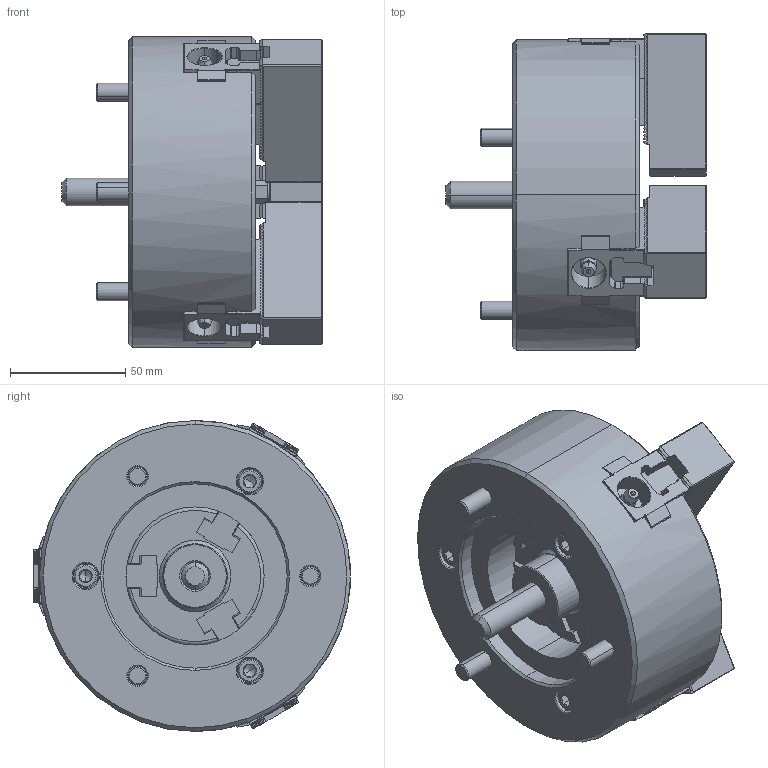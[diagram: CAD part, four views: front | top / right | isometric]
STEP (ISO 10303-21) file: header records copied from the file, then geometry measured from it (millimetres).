
FILE_DESCRIPTION (( 'STEP AP214' ), '1' );
FILE_NAME ('DT1_N-05_OUTSIDE_VIEW_UC.STEP', '2026-03-13T01:57:21', ( '' ), ( '' ), 'SwSTEP 2.0', 'SolidWorks 2022', '' );
FILE_SCHEMA (( 'AUTOMOTIVE_DESIGN' ));
Length unit declared in the file: millimetre
Products named in the file (10): DT1_N-05_M8x60^DT1_N-05; DT1_N-05_DRAWSCREW^DT1_N-05; DT1_N-05_SOFTJAW^DT1_N-05; DT1_N-05_COVER^DT1_N-05; DT1_N-05_M4x8^DT1_N-05; DT1_N-05_DN^DT1_N-05; DT1_N-05_TNUT^DT1_N-05; DT1_N-05_OUTSIDE_VIEW_UC; DT1_N-05_M8x22^DT1_N-05; DT1_N-05_BASE^DT1_N-05
Assembly tree (22 placements, depth 2):
  DT1_N-05_OUTSIDE_VIEW_UC
    DT1_N-05_SOFTJAW^DT1_N-05  x3
    DT1_N-05_TNUT^DT1_N-05  x3
    DT1_N-05_COVER^DT1_N-05
    DT1_N-05_DRAWSCREW^DT1_N-05
    DT1_N-05_DN^DT1_N-05
    DT1_N-05_BASE^DT1_N-05
    DT1_N-05_M8x22^DT1_N-05  x6
    DT1_N-05_M8x60^DT1_N-05  x3
    DT1_N-05_M4x8^DT1_N-05  x3
Bounding box: 113 x 137.65 x 135 mm (x, y, z)
Volume: 817087.9 mm3; surface area: 144190.4 mm2
Topology: 22 solids, 25 shells, 3631 faces, 10118 edges, 6589 vertices
Faces by surface type: plane 2360, cylinder 820, cone 277, bspline 116, torus 52, sphere 6
Entity records: 89819 total; most frequent: CARTESIAN_POINT 24235, ORIENTED_EDGE 14468, DIRECTION 12202, EDGE_CURVE 7234, VECTOR 5432, LINE 5432, VERTEX_POINT 4716, AXIS2_PLACEMENT_3D 3385
